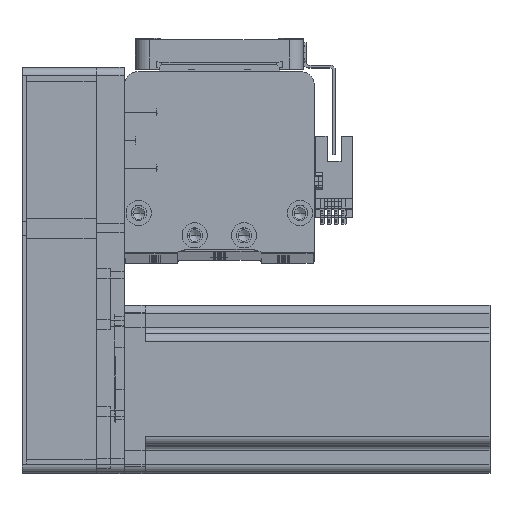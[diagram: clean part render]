
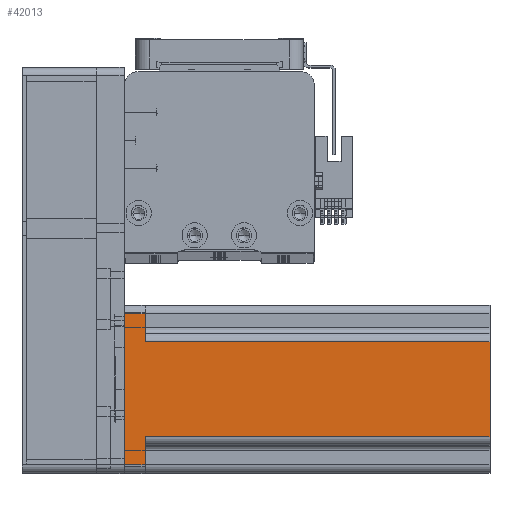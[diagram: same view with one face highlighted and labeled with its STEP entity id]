
A CAD part, top view. The second image highlights one B-rep face of the part: STEP entity #42013.
In plain terms, the highlighted planar face has unit normal (0, 0, 1) as drawn and (0, -1, 0) by its records, which use the part's own axes.
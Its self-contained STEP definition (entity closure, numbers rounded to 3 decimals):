
#553 = VECTOR ( 'NONE', #20974, 1000. ) ;
#1545 = VERTEX_POINT ( 'NONE', #32060 ) ;
#3787 = VERTEX_POINT ( 'NONE', #41401 ) ;
#3806 = VECTOR ( 'NONE', #42992, 1000. ) ;
#3842 = CARTESIAN_POINT ( 'NONE',  ( -27., -30., 130.7 ) ) ;
#3943 = VERTEX_POINT ( 'NONE', #42536 ) ;
#4946 = VERTEX_POINT ( 'NONE', #11221 ) ;
#6178 = CARTESIAN_POINT ( 'NONE',  ( 17., -30., 130.7 ) ) ;
#6546 = CARTESIAN_POINT ( 'NONE',  ( 27., -30., 7.5 ) ) ;
#6710 = DIRECTION ( 'NONE',  ( 0., 0., -1. ) ) ;
#6901 = VECTOR ( 'NONE', #6710, 1000. ) ;
#6985 = DIRECTION ( 'NONE',  ( 0., 0., 1. ) ) ;
#7347 = VERTEX_POINT ( 'NONE', #13333 ) ;
#8281 = LINE ( 'NONE', #32045, #6901 ) ;
#8888 = LINE ( 'NONE', #45944, #20433 ) ;
#9993 = EDGE_CURVE ( 'NONE', #3787, #52247, #8888, .T. ) ;
#10108 = LINE ( 'NONE', #30659, #22981 ) ;
#10244 = VERTEX_POINT ( 'NONE', #30254 ) ;
#10735 = EDGE_CURVE ( 'NONE', #7347, #3787, #23647, .T. ) ;
#11221 = CARTESIAN_POINT ( 'NONE',  ( -17., -30., 7.5 ) ) ;
#12101 = PLANE ( 'NONE',  #43900 ) ;
#13333 = CARTESIAN_POINT ( 'NONE',  ( -27., -30., 0. ) ) ;
#13585 = EDGE_CURVE ( 'NONE', #1545, #4946, #8281, .T. ) ;
#13926 = CARTESIAN_POINT ( 'NONE',  ( 20., -30., 7.5 ) ) ;
#15377 = LINE ( 'NONE', #3842, #3806 ) ;
#15941 = LINE ( 'NONE', #28783, #37666 ) ;
#15945 = VERTEX_POINT ( 'NONE', #6178 ) ;
#17063 = ORIENTED_EDGE ( 'NONE', *, *, #10735, .T. ) ;
#17175 = ORIENTED_EDGE ( 'NONE', *, *, #40645, .F. ) ;
#20433 = VECTOR ( 'NONE', #6985, 1000. ) ;
#20974 = DIRECTION ( 'NONE',  ( 1., 0., 0. ) ) ;
#21245 = CARTESIAN_POINT ( 'NONE',  ( 30., -30., 130.7 ) ) ;
#21385 = ORIENTED_EDGE ( 'NONE', *, *, #51000, .T. ) ;
#22286 = VECTOR ( 'NONE', #36398, 1000. ) ;
#22981 = VECTOR ( 'NONE', #35015, 1000. ) ;
#23647 = LINE ( 'NONE', #25247, #553 ) ;
#25247 = CARTESIAN_POINT ( 'NONE',  ( 30., -30., 0. ) ) ;
#25523 = DIRECTION ( 'NONE',  ( -1., 0., 0. ) ) ;
#27811 = CARTESIAN_POINT ( 'NONE',  ( 30., -30., 130.7 ) ) ;
#28783 = CARTESIAN_POINT ( 'NONE',  ( 17., -30., 130.7 ) ) ;
#30254 = CARTESIAN_POINT ( 'NONE',  ( 17., -30., 7.5 ) ) ;
#30659 = CARTESIAN_POINT ( 'NONE',  ( -20., -30., 7.5 ) ) ;
#31168 = ORIENTED_EDGE ( 'NONE', *, *, #54071, .F. ) ;
#32045 = CARTESIAN_POINT ( 'NONE',  ( -17., -30., 130.7 ) ) ;
#32060 = CARTESIAN_POINT ( 'NONE',  ( -17., -30., 130.7 ) ) ;
#32414 = LINE ( 'NONE', #13926, #55533 ) ;
#33177 = DIRECTION ( 'NONE',  ( 0., 0., 1. ) ) ;
#33845 = ORIENTED_EDGE ( 'NONE', *, *, #9993, .T. ) ;
#35015 = DIRECTION ( 'NONE',  ( 1., 0., 0. ) ) ;
#35333 = DIRECTION ( 'NONE',  ( -1., 0., 0. ) ) ;
#36398 = DIRECTION ( 'NONE',  ( 1., 0., 0. ) ) ;
#36495 = EDGE_LOOP ( 'NONE', ( #31168, #49700, #17175, #21385, #17063, #33845, #46574, #42937 ) ) ;
#37666 = VECTOR ( 'NONE', #33177, 1000. ) ;
#40645 = EDGE_CURVE ( 'NONE', #3943, #4946, #10108, .T. ) ;
#41029 = EDGE_CURVE ( 'NONE', #52247, #10244, #32414, .T. ) ;
#41401 = CARTESIAN_POINT ( 'NONE',  ( 27., -30., 0. ) ) ;
#41856 = EDGE_CURVE ( 'NONE', #10244, #15945, #15941, .T. ) ;
#42013 = ADVANCED_FACE ( 'NONE', ( #55324 ), #12101, .F. ) ;
#42536 = CARTESIAN_POINT ( 'NONE',  ( -27., -30., 7.5 ) ) ;
#42937 = ORIENTED_EDGE ( 'NONE', *, *, #41856, .T. ) ;
#42992 = DIRECTION ( 'NONE',  ( 0., 0., -1. ) ) ;
#43900 = AXIS2_PLACEMENT_3D ( 'NONE', #21245, #51612, #25523 ) ;
#45944 = CARTESIAN_POINT ( 'NONE',  ( 27., -30., 130.7 ) ) ;
#46574 = ORIENTED_EDGE ( 'NONE', *, *, #41029, .T. ) ;
#46779 = LINE ( 'NONE', #27811, #22286 ) ;
#49700 = ORIENTED_EDGE ( 'NONE', *, *, #13585, .T. ) ;
#51000 = EDGE_CURVE ( 'NONE', #3943, #7347, #15377, .T. ) ;
#51612 = DIRECTION ( 'NONE',  ( 0., 1., 0. ) ) ;
#52247 = VERTEX_POINT ( 'NONE', #6546 ) ;
#54071 = EDGE_CURVE ( 'NONE', #1545, #15945, #46779, .T. ) ;
#55324 = FACE_OUTER_BOUND ( 'NONE', #36495, .T. ) ;
#55533 = VECTOR ( 'NONE', #35333, 1000. ) ;
